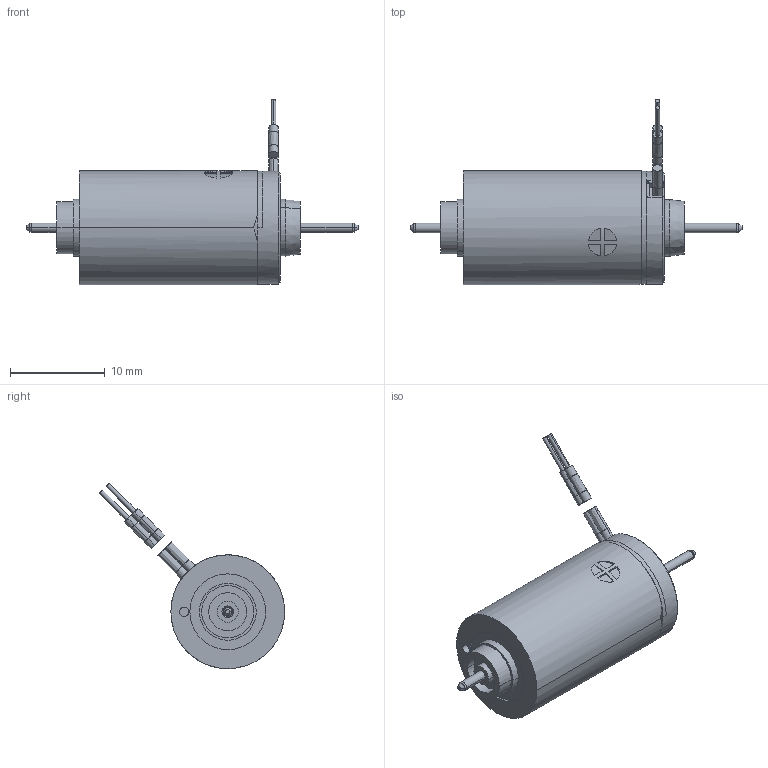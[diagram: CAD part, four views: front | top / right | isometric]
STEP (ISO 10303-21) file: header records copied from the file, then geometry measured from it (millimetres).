
FILE_DESCRIPTION((''),'2;1');
FILE_NAME('200938_','2016-10-10T',('mmagvisi'),(''),'CREO PARAMETRIC BY PTC INC, 2016050','CREO PARAMETRIC BY PTC INC, 2016050','');
FILE_SCHEMA(('CONFIG_CONTROL_DESIGN'));
Length unit declared in the file: millimetre
Products named in the file (1): 200938_
Bounding box: 35 x 19.54 x 19.54 mm (x, y, z)
Volume: 2482.2 mm3; surface area: 1280.8 mm2
Topology: 3 solids, 3 shells, 148 faces, 319 edges, 196 vertices
Faces by surface type: cylinder 64, plane 53, bspline 16, cone 15
Entity records: 5471 total; most frequent: CARTESIAN_POINT 1044, DIRECTION 711, ORIENTED_EDGE 638, PRESENTATION_STYLE_ASSIGNMENT 338, STYLED_ITEM 332, CURVE_STYLE 319, EDGE_CURVE 319, AXIS2_PLACEMENT_3D 292
